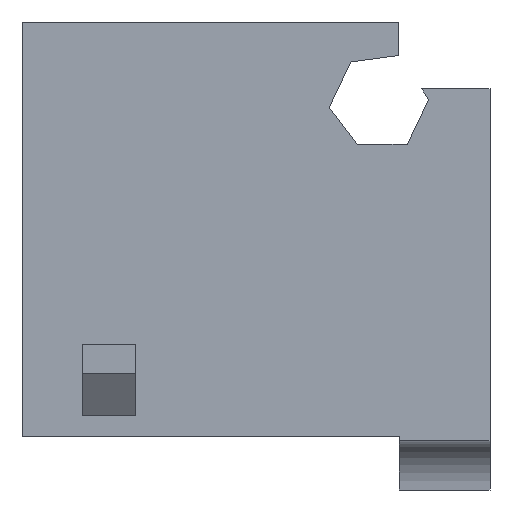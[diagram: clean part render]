
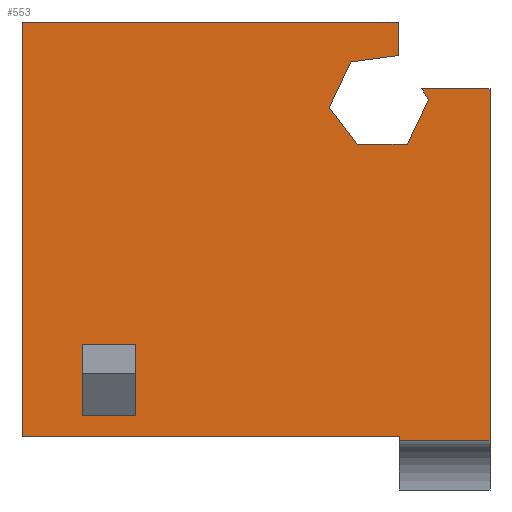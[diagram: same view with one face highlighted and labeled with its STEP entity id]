
A CAD part, front view. The second image highlights one B-rep face of the part: STEP entity #553.
In plain terms, the highlighted planar face has unit normal (0, -1, 0).
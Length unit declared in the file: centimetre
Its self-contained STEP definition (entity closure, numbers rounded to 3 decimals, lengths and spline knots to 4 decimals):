
#4 = CARTESIAN_POINT ( 'NONE',  ( 484.8742, 0., 104.8856 ) ) ;
#23 = CARTESIAN_POINT ( 'NONE',  ( 242.0823, 0., 311.4677 ) ) ;
#31 = DIRECTION ( 'NONE',  ( 0.43, 0., 0.903 ) ) ;
#45 = VERTEX_POINT ( 'NONE', #1134 ) ;
#47 = ORIENTED_EDGE ( 'NONE', *, *, #1198, .T. ) ;
#50 = ORIENTED_EDGE ( 'NONE', *, *, #395, .F. ) ;
#56 = ORIENTED_EDGE ( 'NONE', *, *, #376, .T. ) ;
#72 = ORIENTED_EDGE ( 'NONE', *, *, #1164, .T. ) ;
#93 = CARTESIAN_POINT ( 'NONE',  ( 242.0823, 0., 158.2661 ) ) ;
#99 = ORIENTED_EDGE ( 'NONE', *, *, #724, .F. ) ;
#100 = VECTOR ( 'NONE', #726, 100. ) ;
#101 = CARTESIAN_POINT ( 'NONE',  ( 1000., 0., 1000. ) ) ;
#108 = FACE_OUTER_BOUND ( 'NONE', #993, .T. ) ;
#134 = EDGE_CURVE ( 'NONE', #683, #443, #192, .T. ) ;
#138 = CARTESIAN_POINT ( 'NONE',  ( 1000., 0., 104.8856 ) ) ;
#155 = DIRECTION ( 'NONE',  ( 0.564, 0., -0.826 ) ) ;
#163 = EDGE_CURVE ( 'NONE', #299, #910, #506, .T. ) ;
#167 = EDGE_CURVE ( 'NONE', #373, #299, #761, .T. ) ;
#170 = LINE ( 'NONE', #101, #256 ) ;
#173 = VERTEX_POINT ( 'NONE', #138 ) ;
#174 = LINE ( 'NONE', #4, #623 ) ;
#184 = DIRECTION ( 'NONE',  ( 1., 0., 0. ) ) ;
#192 = LINE ( 'NONE', #665, #604 ) ;
#194 = EDGE_CURVE ( 'NONE', #910, #309, #1167, .T. ) ;
#200 = DIRECTION ( 'NONE',  ( -1., 0., 0. ) ) ;
#206 = VERTEX_POINT ( 'NONE', #587 ) ;
#207 = DIRECTION ( 'NONE',  ( 0., 0., 1. ) ) ;
#215 = EDGE_CURVE ( 'NONE', #1067, #833, #234, .T. ) ;
#216 = LINE ( 'NONE', #223, #822 ) ;
#217 = VECTOR ( 'NONE', #593, 100. ) ;
#221 = CARTESIAN_POINT ( 'NONE',  ( 823.1362, 0., 738.7051 ) ) ;
#223 = CARTESIAN_POINT ( 'NONE',  ( 128.2672, 0., 158.2661 ) ) ;
#226 = CARTESIAN_POINT ( 'NONE',  ( 805.1628, 0., 856.979 ) ) ;
#230 = AXIS2_PLACEMENT_3D ( 'NONE', #471, #1139, #753 ) ;
#234 = LINE ( 'NONE', #393, #1048 ) ;
#238 = VERTEX_POINT ( 'NONE', #900 ) ;
#239 = CARTESIAN_POINT ( 'NONE',  ( 656.2831, 0., 818.1788 ) ) ;
#256 = VECTOR ( 'NONE', #364, 100. ) ;
#257 = CARTESIAN_POINT ( 'NONE',  ( 823.1362, 0., 738.7051 ) ) ;
#260 = EDGE_CURVE ( 'NONE', #262, #373, #1086, .T. ) ;
#262 = VERTEX_POINT ( 'NONE', #809 ) ;
#274 = ORIENTED_EDGE ( 'NONE', *, *, #260, .T. ) ;
#299 = VERTEX_POINT ( 'NONE', #257 ) ;
#301 = VECTOR ( 'NONE', #763, 100. ) ;
#309 = VERTEX_POINT ( 'NONE', #239 ) ;
#312 = LINE ( 'NONE', #671, #331 ) ;
#331 = VECTOR ( 'NONE', #1152, 100. ) ;
#340 = CARTESIAN_POINT ( 'NONE',  ( 805.1628, 0., 928.4895 ) ) ;
#342 = ORIENTED_EDGE ( 'NONE', *, *, #476, .F. ) ;
#348 = VERTEX_POINT ( 'NONE', #722 ) ;
#364 = DIRECTION ( 'NONE',  ( 0., 0., -1. ) ) ;
#366 = LINE ( 'NONE', #93, #684 ) ;
#370 = CARTESIAN_POINT ( 'NONE',  ( 869.0204, 0., 835.0378 ) ) ;
#373 = VERTEX_POINT ( 'NONE', #370 ) ;
#376 = EDGE_CURVE ( 'NONE', #1067, #173, #174, .T. ) ;
#384 = LINE ( 'NONE', #226, #1060 ) ;
#388 = DIRECTION ( 'NONE',  ( 1., 0., 0. ) ) ;
#391 = CARTESIAN_POINT ( 'NONE',  ( 805.5827, 0., 113.4673 ) ) ;
#393 = CARTESIAN_POINT ( 'NONE',  ( 805.5827, 0., 113.4673 ) ) ;
#395 = EDGE_CURVE ( 'NONE', #238, #173, #170, .T. ) ;
#423 = VERTEX_POINT ( 'NONE', #641 ) ;
#436 = VERTEX_POINT ( 'NONE', #560 ) ;
#443 = VERTEX_POINT ( 'NONE', #930 ) ;
#455 = DIRECTION ( 'NONE',  ( 0., 0., 1. ) ) ;
#456 = VERTEX_POINT ( 'NONE', #821 ) ;
#470 = ORIENTED_EDGE ( 'NONE', *, *, #1157, .F. ) ;
#471 = CARTESIAN_POINT ( 'NONE',  ( 0., 0., 1000. ) ) ;
#476 = EDGE_CURVE ( 'NONE', #456, #609, #1165, .T. ) ;
#484 = CARTESIAN_POINT ( 'NONE',  ( 702.1672, 0., 914.5115 ) ) ;
#489 = CARTESIAN_POINT ( 'NONE',  ( 869.0204, 0., 835.0378 ) ) ;
#506 = LINE ( 'NONE', #221, #883 ) ;
#510 = EDGE_CURVE ( 'NONE', #443, #423, #859, .T. ) ;
#511 = CARTESIAN_POINT ( 'NONE',  ( 805.1628, 0., 856.979 ) ) ;
#547 = ORIENTED_EDGE ( 'NONE', *, *, #510, .F. ) ;
#553 = ADVANCED_FACE ( 'NONE', ( #108, #926 ), #642, .F. ) ;
#560 = CARTESIAN_POINT ( 'NONE',  ( 242.0823, 0., 158.2661 ) ) ;
#563 = ORIENTED_EDGE ( 'NONE', *, *, #194, .T. ) ;
#579 = CARTESIAN_POINT ( 'NONE',  ( 656.2831, 0., 818.1788 ) ) ;
#584 = CARTESIAN_POINT ( 'NONE',  ( 128.2672, 0., 158.2661 ) ) ;
#587 = CARTESIAN_POINT ( 'NONE',  ( 0., 0., 1000. ) ) ;
#593 = DIRECTION ( 'NONE',  ( -0.43, 0., -0.903 ) ) ;
#604 = VECTOR ( 'NONE', #200, 100. ) ;
#609 = VERTEX_POINT ( 'NONE', #1066 ) ;
#614 = VECTOR ( 'NONE', #31, 100. ) ;
#615 = EDGE_CURVE ( 'NONE', #262, #238, #384, .T. ) ;
#623 = VECTOR ( 'NONE', #184, 100. ) ;
#631 = CARTESIAN_POINT ( 'NONE',  ( 0., 0., 1000. ) ) ;
#634 = EDGE_CURVE ( 'NONE', #309, #348, #1062, .T. ) ;
#641 = CARTESIAN_POINT ( 'NONE',  ( 128.2672, 0., 158.2661 ) ) ;
#642 = PLANE ( 'NONE',  #230 ) ;
#658 = ORIENTED_EDGE ( 'NONE', *, *, #634, .T. ) ;
#665 = CARTESIAN_POINT ( 'NONE',  ( 128.2672, 0., 311.4677 ) ) ;
#671 = CARTESIAN_POINT ( 'NONE',  ( 0., 0., 1000. ) ) ;
#683 = VERTEX_POINT ( 'NONE', #23 ) ;
#684 = VECTOR ( 'NONE', #455, 100. ) ;
#693 = DIRECTION ( 'NONE',  ( -1., 0., 0. ) ) ;
#718 = VECTOR ( 'NONE', #1063, 100. ) ;
#722 = CARTESIAN_POINT ( 'NONE',  ( 702.1672, 0., 914.5115 ) ) ;
#724 = EDGE_CURVE ( 'NONE', #833, #45, #1072, .T. ) ;
#726 = DIRECTION ( 'NONE',  ( 1., 0., 0. ) ) ;
#753 = DIRECTION ( 'NONE',  ( 0., 0., 1. ) ) ;
#761 = LINE ( 'NONE', #489, #217 ) ;
#763 = DIRECTION ( 'NONE',  ( 0.991, 0., 0.134 ) ) ;
#773 = DIRECTION ( 'NONE',  ( 0., 0., -1. ) ) ;
#781 = ORIENTED_EDGE ( 'NONE', *, *, #134, .F. ) ;
#785 = ORIENTED_EDGE ( 'NONE', *, *, #215, .F. ) ;
#788 = DIRECTION ( 'NONE',  ( 1., 0., 0. ) ) ;
#791 = ORIENTED_EDGE ( 'NONE', *, *, #969, .F. ) ;
#800 = CARTESIAN_POINT ( 'NONE',  ( 805.5827, 0., 113.4673 ) ) ;
#809 = CARTESIAN_POINT ( 'NONE',  ( 854.0275, 0., 856.979 ) ) ;
#811 = CARTESIAN_POINT ( 'NONE',  ( 716.7676, 0., 738.7051 ) ) ;
#821 = CARTESIAN_POINT ( 'NONE',  ( 805.1628, 0., 1000. ) ) ;
#822 = VECTOR ( 'NONE', #388, 100. ) ;
#833 = VERTEX_POINT ( 'NONE', #800 ) ;
#839 = VECTOR ( 'NONE', #155, 100. ) ;
#853 = ORIENTED_EDGE ( 'NONE', *, *, #167, .T. ) ;
#859 = LINE ( 'NONE', #584, #1019 ) ;
#875 = VECTOR ( 'NONE', #970, 100. ) ;
#878 = ORIENTED_EDGE ( 'NONE', *, *, #615, .F. ) ;
#883 = VECTOR ( 'NONE', #693, 100. ) ;
#900 = CARTESIAN_POINT ( 'NONE',  ( 1000., 0., 856.979 ) ) ;
#904 = VECTOR ( 'NONE', #977, 100. ) ;
#910 = VERTEX_POINT ( 'NONE', #811 ) ;
#924 = EDGE_CURVE ( 'NONE', #206, #456, #1200, .T. ) ;
#926 = FACE_BOUND ( 'NONE', #1185, .T. ) ;
#930 = CARTESIAN_POINT ( 'NONE',  ( 128.2672, 0., 311.4677 ) ) ;
#969 = EDGE_CURVE ( 'NONE', #436, #683, #366, .T. ) ;
#970 = DIRECTION ( 'NONE',  ( 0., 0., -1. ) ) ;
#977 = DIRECTION ( 'NONE',  ( -1., 0., 0. ) ) ;
#979 = CARTESIAN_POINT ( 'NONE',  ( 716.7676, 0., 738.7051 ) ) ;
#993 = EDGE_LOOP ( 'NONE', ( #785, #56, #50, #878, #274, #853, #1090, #563, #658, #72, #342, #1136, #47, #99 ) ) ;
#1019 = VECTOR ( 'NONE', #773, 100. ) ;
#1048 = VECTOR ( 'NONE', #207, 100. ) ;
#1060 = VECTOR ( 'NONE', #788, 100. ) ;
#1062 = LINE ( 'NONE', #579, #614 ) ;
#1063 = DIRECTION ( 'NONE',  ( -0.606, 0., 0.796 ) ) ;
#1066 = CARTESIAN_POINT ( 'NONE',  ( 805.1628, 0., 928.4895 ) ) ;
#1067 = VERTEX_POINT ( 'NONE', #1141 ) ;
#1072 = LINE ( 'NONE', #391, #904 ) ;
#1086 = LINE ( 'NONE', #340, #839 ) ;
#1090 = ORIENTED_EDGE ( 'NONE', *, *, #163, .T. ) ;
#1134 = CARTESIAN_POINT ( 'NONE',  ( 0., 0., 113.4673 ) ) ;
#1136 = ORIENTED_EDGE ( 'NONE', *, *, #924, .F. ) ;
#1139 = DIRECTION ( 'NONE',  ( 0., 1., 0. ) ) ;
#1141 = CARTESIAN_POINT ( 'NONE',  ( 805.5827, 0., 104.8856 ) ) ;
#1152 = DIRECTION ( 'NONE',  ( 0., 0., -1. ) ) ;
#1157 = EDGE_CURVE ( 'NONE', #423, #436, #216, .T. ) ;
#1164 = EDGE_CURVE ( 'NONE', #348, #609, #1168, .T. ) ;
#1165 = LINE ( 'NONE', #511, #875 ) ;
#1167 = LINE ( 'NONE', #979, #718 ) ;
#1168 = LINE ( 'NONE', #484, #301 ) ;
#1185 = EDGE_LOOP ( 'NONE', ( #470, #547, #781, #791 ) ) ;
#1198 = EDGE_CURVE ( 'NONE', #206, #45, #312, .T. ) ;
#1200 = LINE ( 'NONE', #631, #100 ) ;
